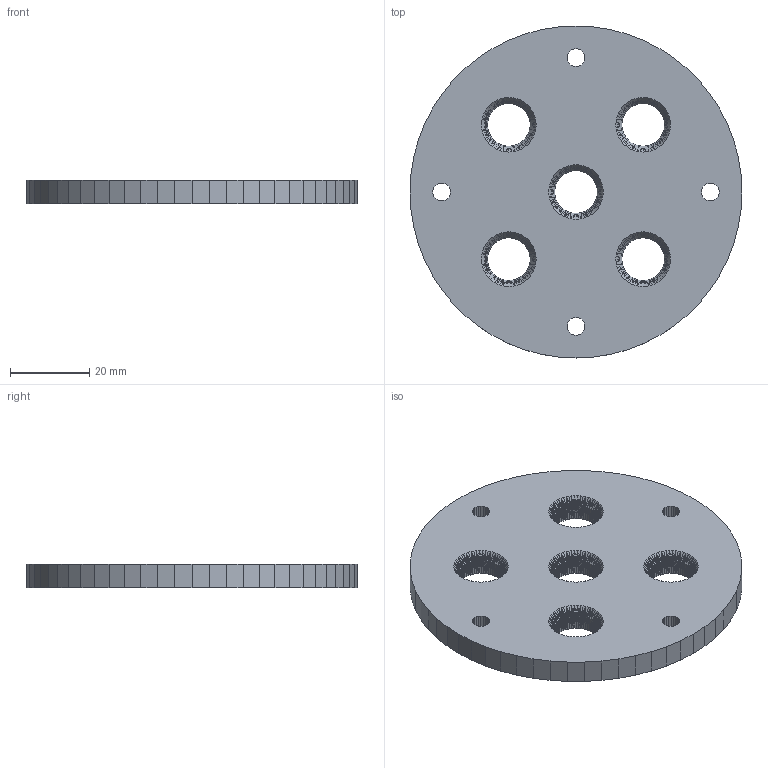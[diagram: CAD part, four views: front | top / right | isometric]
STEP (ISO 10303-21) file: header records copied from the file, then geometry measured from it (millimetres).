
FILE_DESCRIPTION(('Open CASCADE Model'),'2;1');
FILE_NAME('Open CASCADE Shape Model','2026-08-07T13:51:17',('Author'),( 'Open CASCADE'),'Open CASCADE STEP processor 7.9','Open CASCADE 7.9' ,'Unknown');
FILE_SCHEMA(('AUTOMOTIVE_DESIGN { 1 0 10303 214 1 1 1 1 }'));
Products named in the file (1): 插孔板(理香機構)
Bounding box: 84 x 84 x 6 mm (x, y, z)
Volume: 29792.1 mm3; surface area: 12815.9 mm2
Topology: 1 solids, 1 shells, 3220 faces, 5505 edges, 2287 vertices
Faces by surface type: plane 3220
Entity records: 140488 total; most frequent: DIRECTION 22957, CARTESIAN_POINT 22023, LINE 16515, VECTOR 16515, ORIENTED_EDGE 11010, PCURVE 11010, DEFINITIONAL_REPRESENTATION 11010, EDGE_CURVE 5505
